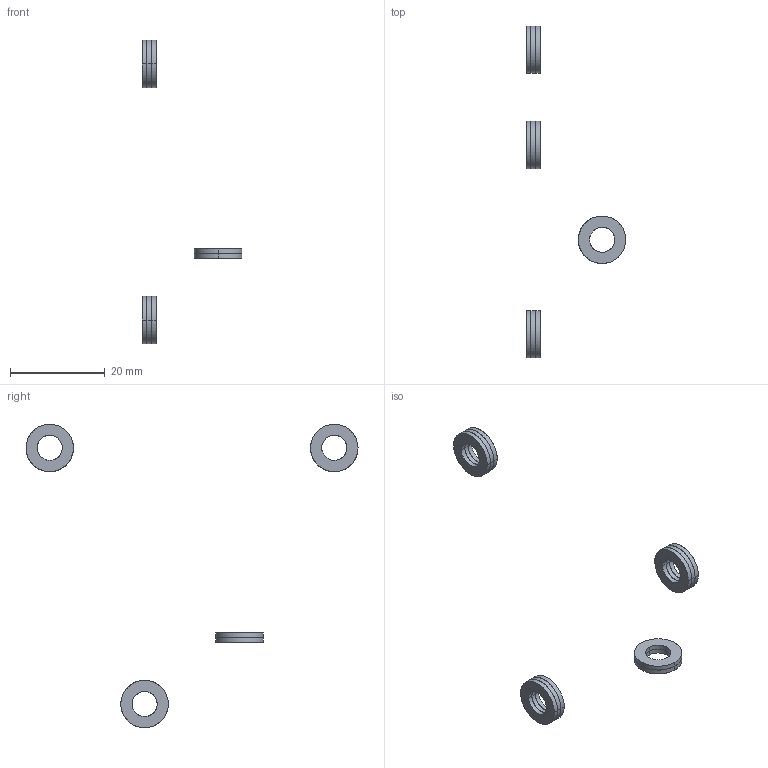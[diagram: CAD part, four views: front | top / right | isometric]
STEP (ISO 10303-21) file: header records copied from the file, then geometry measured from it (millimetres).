
FILE_DESCRIPTION(/* description */ (''),/* implementation_level */ '2;1');
FILE_NAME(/* name */ '5.y-cart#5.2#PWF5',/* time_stamp */ '2014-12-01T20:13:19+01:00',/* author */ (''),/* organization */ (''),/* preprocessor_version */ 'ST-DEVELOPER v14',/* originating_system */ '',/* authorisation */ '');
FILE_SCHEMA (('AUTOMOTIVE_DESIGN'));
Length unit declared in the file: millimetre
Products named in the file (2): Document; washer DIN125-like, form A, M5
Assembly tree (11 placements, depth 2):
  Document
    washer DIN125-like, form A, M5  x11
Bounding box: 21 x 70 x 64 mm (x, y, z)
Surface area: 1774 mm2 (no closed solid volume)
Topology: 0 solids, 66 shells, 66 faces, 220 edges, 220 vertices
Faces by surface type: bspline 44, plane 22
Entity records: 623 total; most frequent: CARTESIAN_POINT 268, DIRECTION 30, B_SPLINE_CURVE_WITH_KNOTS 24, ORIENTED_EDGE 20, PCURVE 20, DEFINITIONAL_REPRESENTATION 20, SURFACE_CURVE 20, EDGE_CURVE 20
